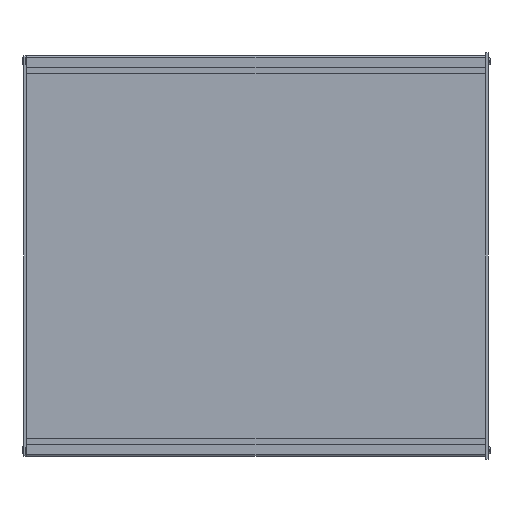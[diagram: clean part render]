
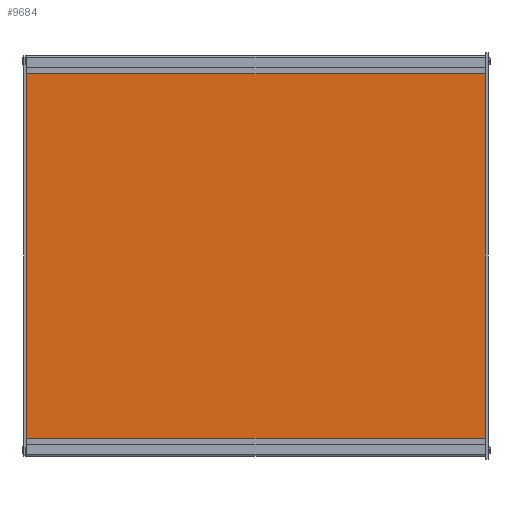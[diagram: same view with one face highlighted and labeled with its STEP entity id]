
A CAD part, left-side view. The second image highlights one B-rep face of the part: STEP entity #9684.
In plain terms, the highlighted planar face has unit normal (-1, 0, 0).
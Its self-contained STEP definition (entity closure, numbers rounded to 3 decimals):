
#1052=PLANE('',#10594);
#1348=FACE_OUTER_BOUND('',#1934,.T.);
#1934=EDGE_LOOP('',(#7337,#7338,#7339,#7340));
#2854=LINE('',#15238,#3584);
#2864=LINE('',#15259,#3594);
#2865=LINE('',#15261,#3595);
#2866=LINE('',#15262,#3596);
#3584=VECTOR('',#12188,10.);
#3594=VECTOR('',#12206,10.);
#3595=VECTOR('',#12207,10.);
#3596=VECTOR('',#12208,10.);
#4730=VERTEX_POINT('',#15231);
#4733=VERTEX_POINT('',#15236);
#4740=VERTEX_POINT('',#15258);
#4741=VERTEX_POINT('',#15260);
#5677=EDGE_CURVE('',#4730,#4733,#2854,.T.);
#5687=EDGE_CURVE('',#4730,#4740,#2864,.T.);
#5688=EDGE_CURVE('',#4741,#4733,#2865,.T.);
#5689=EDGE_CURVE('',#4740,#4741,#2866,.T.);
#7337=ORIENTED_EDGE('',*,*,#5687,.F.);
#7338=ORIENTED_EDGE('',*,*,#5677,.T.);
#7339=ORIENTED_EDGE('',*,*,#5688,.F.);
#7340=ORIENTED_EDGE('',*,*,#5689,.F.);
#9684=ADVANCED_FACE('',(#1348),#1052,.T.);
#10594=AXIS2_PLACEMENT_3D('',#15257,#12204,#12205);
#12188=DIRECTION('',(0.,1.,0.));
#12204=DIRECTION('center_axis',(-1.,0.,0.));
#12205=DIRECTION('ref_axis',(0.,0.,1.));
#12206=DIRECTION('',(0.,0.,-1.));
#12207=DIRECTION('',(0.,0.,1.));
#12208=DIRECTION('',(0.,1.,0.));
#15231=CARTESIAN_POINT('',(239.,0.,114.7));
#15236=CARTESIAN_POINT('',(239.,400.,114.7));
#15238=CARTESIAN_POINT('',(239.,0.,114.7));
#15257=CARTESIAN_POINT('Origin',(239.,0.,-202.8));
#15258=CARTESIAN_POINT('',(239.,0.,-202.8));
#15259=CARTESIAN_POINT('',(239.,0.,-44.05));
#15260=CARTESIAN_POINT('',(239.,400.,-202.8));
#15261=CARTESIAN_POINT('',(239.,400.,-44.05));
#15262=CARTESIAN_POINT('',(239.,0.,-202.8));
